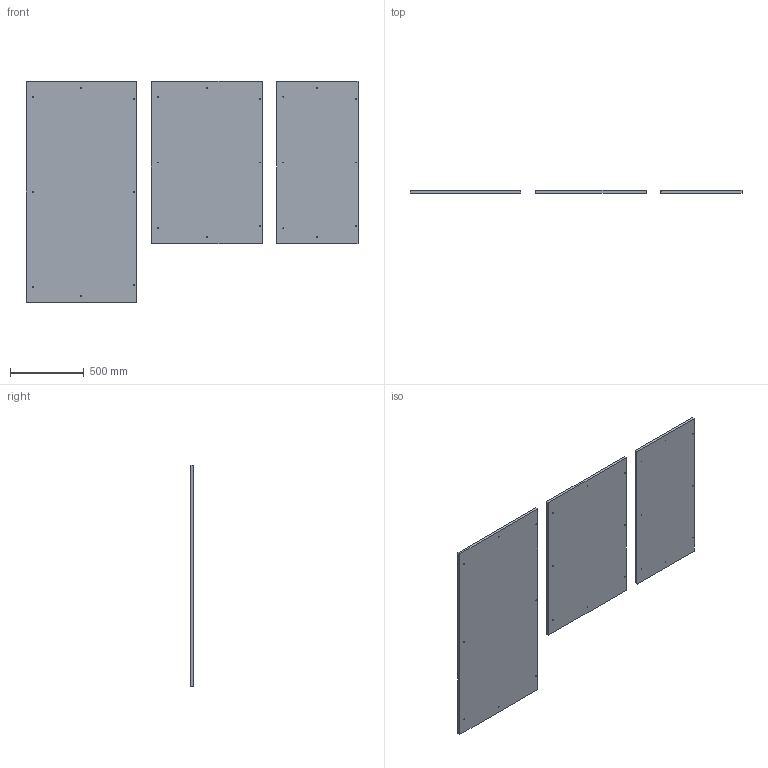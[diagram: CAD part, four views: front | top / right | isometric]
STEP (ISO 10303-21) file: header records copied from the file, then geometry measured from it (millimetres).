
FILE_DESCRIPTION(/* description */ (''),/* implementation_level */ '2;1');
FILE_NAME(/* name */ 'Worktable - Specific Parts S-M-L.step',/* time_stamp */ '2023-06-26T15:33:54+02:00',/* author */ (''),/* organization */ (''),/* preprocessor_version */ 'ST-DEVELOPER v19.2',/* originating_system */ 'Autodesk Translation Framework v12.6.0.85',/* authorisation */ '');
FILE_SCHEMA (('AUTOMOTIVE_DESIGN { 1 0 10303 214 3 1 1 }'));
Length unit declared in the file: millimetre
Products named in the file (4): Worktable - Specific Parts S-M-L; Worktable_MDF_Surface_L; Worktable_MDF_Surface_M; Worktable_MDF_Surface_S
Assembly tree (3 placements, depth 2):
  Worktable - Specific Parts S-M-L
    Worktable_MDF_Surface_L
    Worktable_MDF_Surface_M
    Worktable_MDF_Surface_S
Bounding box: 2250 x 18 x 1500 mm (x, y, z)
Volume: 45965669.7 mm3; surface area: 5326276.1 mm2
Topology: 3 solids, 3 shells, 96 faces, 198 edges, 132 vertices
Faces by surface type: cylinder 54, plane 42
Full cylindrical faces by diameter (mm): 6.6 x24, 11 x24
Entity records: 2821 total; most frequent: DIRECTION 514, CARTESIAN_POINT 434, ORIENTED_EDGE 396, AXIS2_PLACEMENT_3D 212, EDGE_CURVE 198, EDGE_LOOP 168, VERTEX_POINT 132, CIRCLE 108
